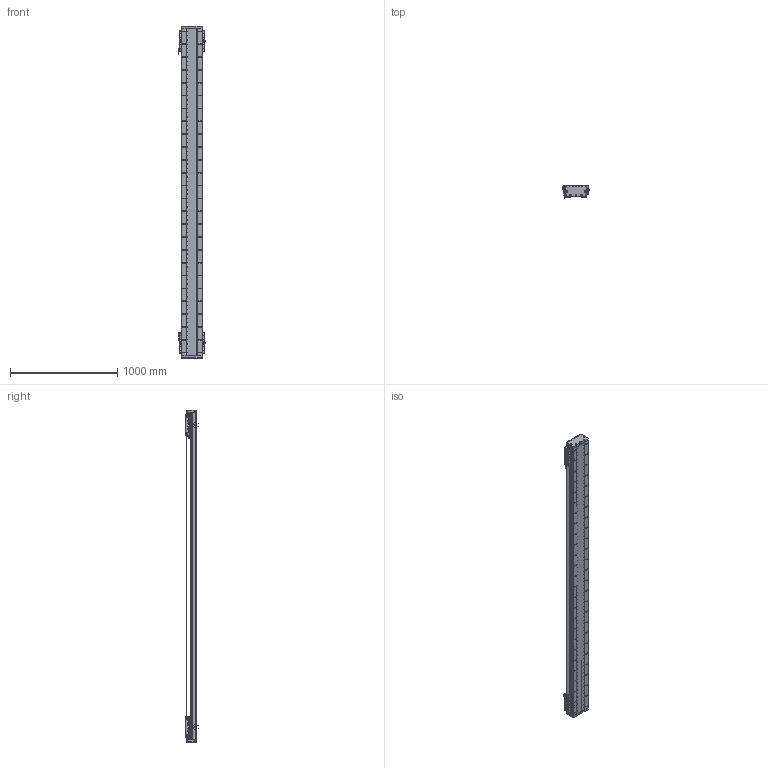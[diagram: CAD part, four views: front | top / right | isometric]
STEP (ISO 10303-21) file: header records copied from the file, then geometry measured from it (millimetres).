
FILE_DESCRIPTION (( 'STEP AP203' ), '1' );
FILE_NAME ('DA-C195-2-C2-T2600-C010-0.2 眻盄萇儂.STEP', '2025-08-14T02:12:57', ( '' ), ( '' ), 'SwSTEP 2.0', 'SolidWorks 2019', '' );
FILE_SCHEMA (( 'CONFIG_CONTROL_DESIGN' ));
Length unit declared in the file: millimetre
Products named in the file (19): DKW-GYP-ZJ-00 笢潔嫖萇覜茼え-1; DA195詩湍菜輸-1; 葩璃 DA95-GT-T-00-1; DA165-GYP-00 光电感应片(默认)-1; MS200 棠掑喜S315-T1740-1; DA195詩湍嶺輸-1; DA195詩湍郪璃-1; DKW168-HXJ-ZJ-00 笢潔滅袉砎蝶-1; PM-Y65嫖萇羲壽郪璃-1; PM-T45ㄗ侂狟ㄘ-1; CU195-C2賑輸-俋楷-1; DKW-KGZ-ZJ-00 中间光电开关支架-1; DA-C195-GD-DB-H-00 傷啣-1; IU-CU195-L 菁釱絳寢-1; DA-C195-2-C2-T2600-C010-0.2 眻盄萇儂; IU-CU195-L-00 菁釱(L3060); DA195詩湍裔啣-1; LMT黍杅芛-1; DA95-HXJ-00 遣喳砎蝶-1
Assembly tree (37 placements, depth 3):
  DA-C195-2-C2-T2600-C010-0.2 眻盄萇儂
    DA195詩湍郪璃-1
      DA195詩湍菜輸-1  x2
      DA195詩湍裔啣-1
      DA195詩湍嶺輸-1  x2
      DA95-HXJ-00 遣喳砎蝶-1  x8
      DA-C195-GD-DB-H-00 傷啣-1  x2
    IU-CU195-L 菁釱絳寢-1
      IU-CU195-L-00 菁釱(L3060)
      葩璃 DA95-GT-T-00-1  x4
    LMT黍杅芛-1  x2
    MS200 棠掑喜S315-T1740-1
    PM-T45ㄗ侂狟ㄘ-1  x4
    DA165-GYP-00 光电感应片(默认)-1  x2
    PM-Y65嫖萇羲壽郪璃-1
    DKW168-HXJ-ZJ-00 笢潔滅袉砎蝶-1
    DKW-GYP-ZJ-00 笢潔嫖萇覜茼え-1
    DKW-KGZ-ZJ-00 中间光电开关支架-1
    CU195-C2賑輸-俋楷-1  x2
Bounding box: 258.2 x 115.45 x 3100 mm (x, y, z)
Volume: 18673480.4 mm3; surface area: 5466111.5 mm2
Topology: 114 solids, 242 shells, 7217 faces, 19391 edges, 12097 vertices
Faces by surface type: cylinder 3500, plane 2633, cone 916, torus 88, sphere 72, bspline 8
Entity records: 161887 total; most frequent: CARTESIAN_POINT 44795, ORIENTED_EDGE 24614, DIRECTION 23234, EDGE_CURVE 12307, AXIS2_PLACEMENT_3D 8577, VERTEX_POINT 7984, LINE 6080, VECTOR 6080
